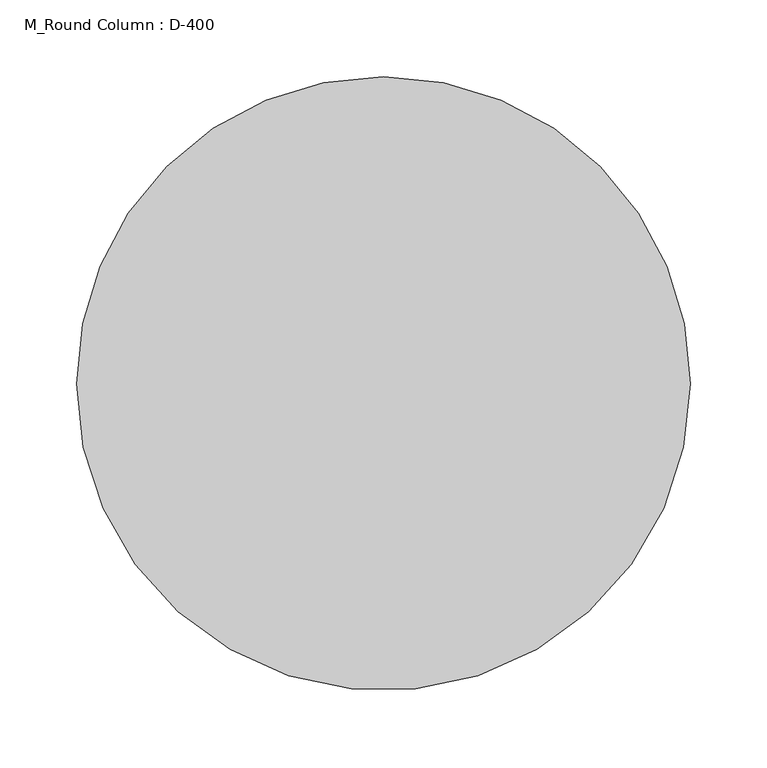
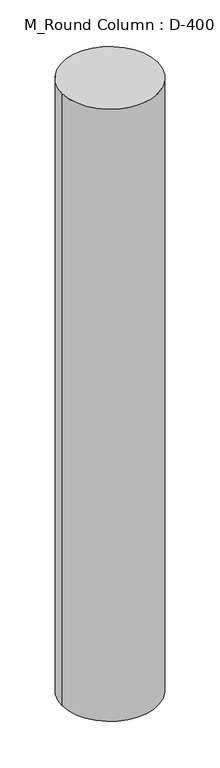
"""IFC4 building model written with IfcOpenShell, lengths in millimetres: column geometry, M_Round Column : D-400."""

from ifc_helpers import new_model, si_unit, point, frame, origin, origin_2d, place, context, project, spatial, circle_curve, trimmed, segment, composite_curve, outline, extrude, source, transform, mapped, element, save


def m_round_column_d_400_bf70b7f6(model_context):
    return source(origin(), model_context, "Body", "SweptSolid", [
        extrude(outline(composite_curve([segment(trimmed(circle_curve(origin_2d(), 200.0), [point((200.0, 0.0))], [point((-200.0, 0.0))], False, "CARTESIAN"), True, "CONTINUOUS"), segment(trimmed(circle_curve(origin_2d(), 200.0), [point((-200.0, 0.0))], [point((0.0, 200.0))], False, "CARTESIAN"), True, "CONTINUOUS"), segment(trimmed(circle_curve(origin_2d(), 200.0), [point((0.0, 200.0))], [point((200.0, 0.0))], False, "CARTESIAN"), True, "CONTINUOUS")], self_intersect=False)), frame((0.0, 0.0, 7920.0), z_axis=(0.0, 0.0, 1.0), x_axis=(1.0, 0.0, 0.0)), (0.0, 0.0, 1.0), 2720.0),
    ])


if __name__ == "__main__":
    model = new_model("IFC4")
    model_context = context("Model", 3, world=origin())
    ifc_project = project(units=[si_unit("LENGTHUNIT", "METRE", prefix="MILLI")], contexts=[model_context])
    site = spatial("IfcSite", under=ifc_project)
    building = spatial("IfcBuilding", under=site)
    placement = place(None, origin())
    m_round_column_d_400_shape = m_round_column_d_400_bf70b7f6(model_context)
    element("IfcColumn", 1, ObjectType="M_Round Column : D-400", at=placement, inside=building, context=model_context, shape_type="MappedRepresentation", body=[
        mapped(m_round_column_d_400_shape, transform((0.0, 0.0, 0.0), x_axis=(1.0, 0.0, 0.0), y_axis=(0.0, 1.0, 0.0), z_axis=(0.0, 0.0, 1.0))),
    ])
    save(model, "model.ifc")
